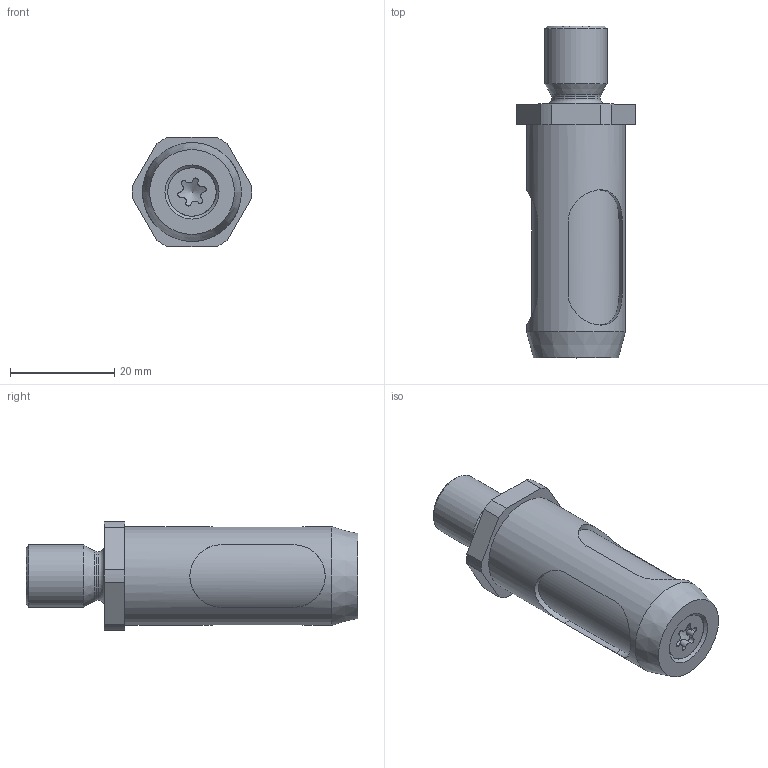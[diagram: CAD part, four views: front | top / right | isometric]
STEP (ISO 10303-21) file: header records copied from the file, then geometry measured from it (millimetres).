
FILE_DESCRIPTION(/* description */ (''),/* implementation_level */ '2;1');
FILE_NAME(/* name */ '\\dc01\daten\CAD\Standard\Daten\3D-Datenbank\GI\GIS\4 - 3D-CAD-Daten GIS 004-020\G-GIS019\G-GIS019_Rev.1.02.stp',/* time_stamp */ '2022-11-29T16:06:12+01:00',/* author */ ('ysplieth'),/* organization */ (''),/* preprocessor_version */ 'ST-DEVELOPER v17',/* originating_system */ 'Autodesk Inventor 2018',/* authorisation */ '');
FILE_SCHEMA (('AUTOMOTIVE_DESIGN { 1 0 10303 214 3 1 1 }'));
Length unit declared in the file: millimetre
Products named in the file (1): Bauteil13
Bounding box: 22.99 x 63.8 x 21 mm (x, y, z)
Volume: 13601.1 mm3; surface area: 9030.5 mm2
Topology: 1 solids, 4 shells, 78 faces, 216 edges, 149 vertices
Faces by surface type: cylinder 41, plane 23, cone 11, torus 3
Full cylindrical faces by diameter (mm): 4 x2, 4.134 x2, 5 x1, 5.5 x1, 9.3 x1, 9.4 x1, 12 x1, 14.8 x1, 15 x1, 17 x2, 19 x1
Entity records: 3194 total; most frequent: CARTESIAN_POINT 1046, ORIENTED_EDGE 426, DIRECTION 422, EDGE_CURVE 213, AXIS2_PLACEMENT_3D 167, VERTEX_POINT 149, EDGE_LOOP 92, LINE 88
